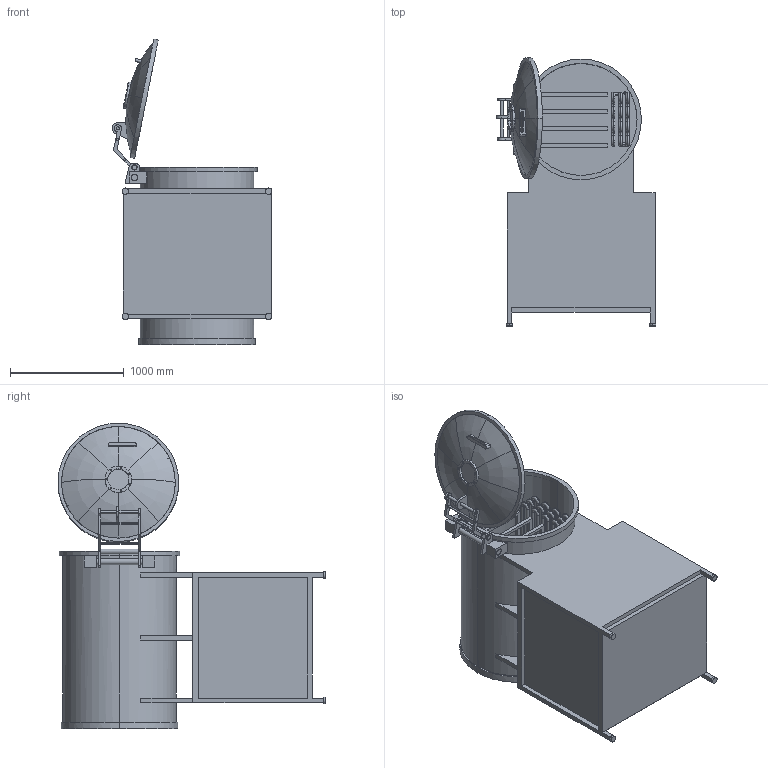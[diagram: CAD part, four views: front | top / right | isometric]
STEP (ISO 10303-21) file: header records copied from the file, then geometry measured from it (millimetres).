
FILE_DESCRIPTION(('CATIA V5 STEP Exchange','CAx-IF Rec.Pracs.--- Model Styling and Organization---1.4--- 2014-01-23','CAx-IF Rec.Pracs.---3D Tessellated Data Validation Properties---0.5---2014-09-14'),'2;1');
FILE_NAME('C:\가치같이\SmartFactory_Freeze dryer\Freeze Dryer.stp','2024-09-10T07:58:26+00:00',('none'),('none'),'CATIA Version 5-6 Release 2019','3DEXPERIENCE Platform STEP AP242 v1','none');
FILE_SCHEMA(('AP242_MANAGED_MODEL_BASED_3D_ENGINEERING_MIM_LF {1 0 10303 442 1 1 4}'));
Length unit declared in the file: millimetre
Products named in the file (9): freeze dryer; tutucu kol; tepsi; kazan; hex bolt gradeab_iso_ISO 4014 - M8 x 45 x 22-N; stand; evaparat? 2; tutucu; kap?
Assembly tree (14 placements, depth 2):
  freeze dryer
    tutucu kol
    tepsi
    kazan
    hex bolt gradeab_iso_ISO 4014 - M8 x 45 x 22-N  x7
    stand
    evaparat? 2
    tutucu
    kap?
Bounding box: 1405.19 x 2353.83 x 2686 mm (x, y, z)
Volume: 1545321154.2 mm3; surface area: 30084060.5 mm2
Topology: 21 solids, 25 shells, 686 faces, 1563 edges, 930 vertices
Faces by surface type: plane 283, cylinder 231, torus 106, cone 56, bspline 10
Entity records: 15032 total; most frequent: CARTESIAN_POINT 4149, ORIENTED_EDGE 2404, DIRECTION 1742, EDGE_CURVE 1203, AXIS2_PLACEMENT_3D 822, VERTEX_POINT 726, EDGE_LOOP 584, VECTOR 581
